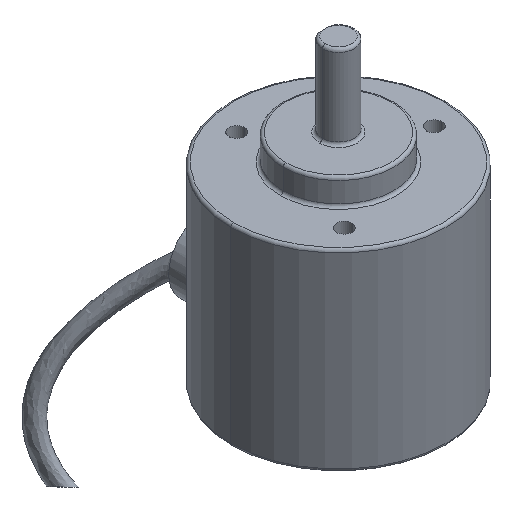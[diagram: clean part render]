
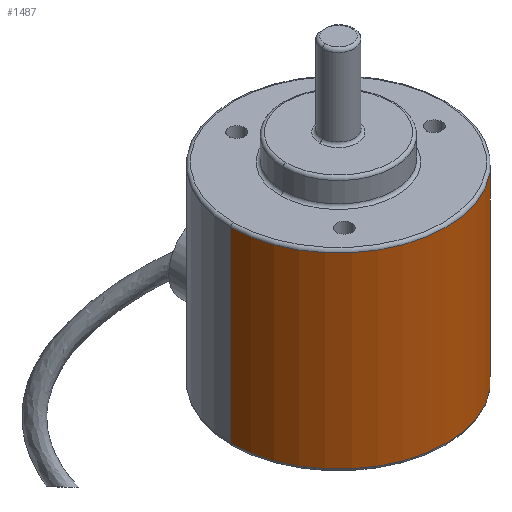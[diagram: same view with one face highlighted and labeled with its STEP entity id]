
A CAD part, isometric view. The second image highlights one B-rep face of the part: STEP entity #1487.
In plain terms, the highlighted cylindrical face has radius 19.15 mm (diameter 38.3 mm), a partial arc.
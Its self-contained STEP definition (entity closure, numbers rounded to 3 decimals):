
#14 = ORIENTED_EDGE ( 'NONE', *, *, #204, .T. ) ;
#88 = CARTESIAN_POINT ( 'NONE',  ( -19.15, 0., 34.3 ) ) ;
#118 = DIRECTION ( 'NONE',  ( 0., 0., -1. ) ) ;
#172 = DIRECTION ( 'NONE',  ( 1., 0., 0. ) ) ;
#204 = EDGE_CURVE ( 'NONE', #686, #851, #1301, .T. ) ;
#246 = VERTEX_POINT ( 'NONE', #1536 ) ;
#283 = ORIENTED_EDGE ( 'NONE', *, *, #548, .T. ) ;
#318 = CIRCLE ( 'NONE', #1064, 19.15 ) ;
#364 = FACE_OUTER_BOUND ( 'NONE', #1049, .T. ) ;
#434 = VECTOR ( 'NONE', #1429, 1000. ) ;
#496 = CARTESIAN_POINT ( 'NONE',  ( 0., 0., 33.8 ) ) ;
#504 = EDGE_CURVE ( 'NONE', #246, #1137, #763, .T. ) ;
#548 = EDGE_CURVE ( 'NONE', #851, #1137, #1469, .T. ) ;
#598 = DIRECTION ( 'NONE',  ( -1., 0., 0. ) ) ;
#645 = CARTESIAN_POINT ( 'NONE',  ( 0., 0., 0.5 ) ) ;
#652 = DIRECTION ( 'NONE',  ( 0., 0., 1. ) ) ;
#686 = VERTEX_POINT ( 'NONE', #948 ) ;
#763 = LINE ( 'NONE', #1012, #1446 ) ;
#764 = AXIS2_PLACEMENT_3D ( 'NONE', #1327, #118, #598 ) ;
#830 = EDGE_CURVE ( 'NONE', #246, #686, #318, .T. ) ;
#851 = VERTEX_POINT ( 'NONE', #1108 ) ;
#948 = CARTESIAN_POINT ( 'NONE',  ( -19.15, 0., 33.8 ) ) ;
#1012 = CARTESIAN_POINT ( 'NONE',  ( 19.15, 0., 34.3 ) ) ;
#1031 = ORIENTED_EDGE ( 'NONE', *, *, #504, .F. ) ;
#1049 = EDGE_LOOP ( 'NONE', ( #1031, #1442, #14, #283 ) ) ;
#1063 = CYLINDRICAL_SURFACE ( 'NONE', #764, 19.15 ) ;
#1064 = AXIS2_PLACEMENT_3D ( 'NONE', #496, #1164, #172 ) ;
#1108 = CARTESIAN_POINT ( 'NONE',  ( -19.15, 0., 0.5 ) ) ;
#1122 = DIRECTION ( 'NONE',  ( 1., 0., 0. ) ) ;
#1137 = VERTEX_POINT ( 'NONE', #1181 ) ;
#1164 = DIRECTION ( 'NONE',  ( 0., 0., -1. ) ) ;
#1181 = CARTESIAN_POINT ( 'NONE',  ( 19.15, 0., 0.5 ) ) ;
#1301 = LINE ( 'NONE', #88, #434 ) ;
#1327 = CARTESIAN_POINT ( 'NONE',  ( 0., 0., 34.3 ) ) ;
#1385 = DIRECTION ( 'NONE',  ( 0., 0., -1. ) ) ;
#1427 = AXIS2_PLACEMENT_3D ( 'NONE', #645, #652, #1122 ) ;
#1429 = DIRECTION ( 'NONE',  ( 0., 0., -1. ) ) ;
#1442 = ORIENTED_EDGE ( 'NONE', *, *, #830, .T. ) ;
#1446 = VECTOR ( 'NONE', #1385, 1000. ) ;
#1469 = CIRCLE ( 'NONE', #1427, 19.15 ) ;
#1487 = ADVANCED_FACE ( 'NONE', ( #364 ), #1063, .T. ) ;
#1536 = CARTESIAN_POINT ( 'NONE',  ( 19.15, 0., 33.8 ) ) ;
